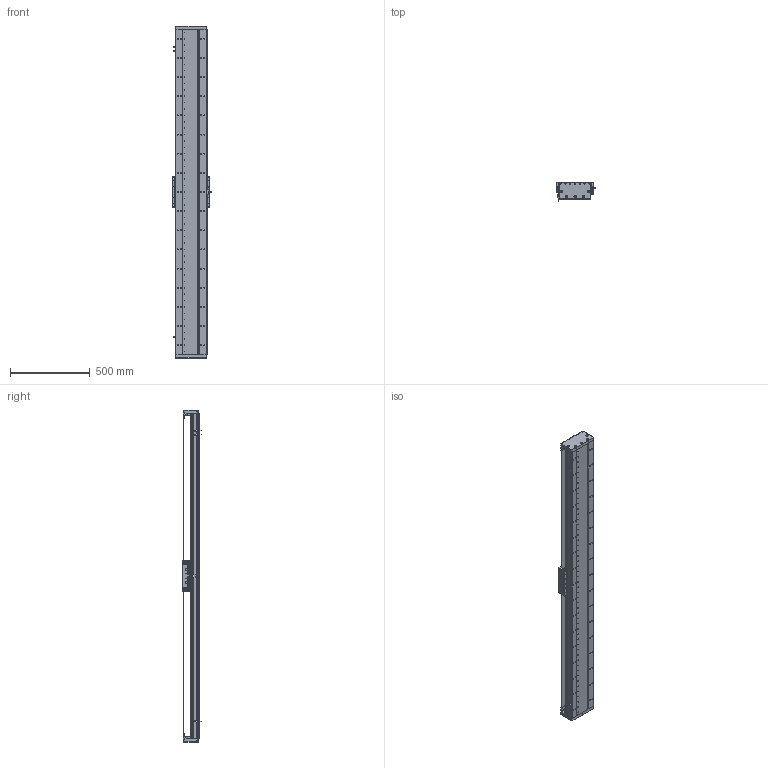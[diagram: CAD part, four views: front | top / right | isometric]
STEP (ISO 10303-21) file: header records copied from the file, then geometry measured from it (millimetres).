
FILE_DESCRIPTION (( 'STEP AP203' ), '1' );
FILE_NAME ('DA-C195-C2-T1800-C010-0.2 眻盄萇儂.STEP', '2025-08-15T01:08:32', ( '' ), ( '' ), 'SwSTEP 2.0', 'SolidWorks 2019', '' );
FILE_SCHEMA (( 'CONFIG_CONTROL_DESIGN' ));
Length unit declared in the file: millimetre
Products named in the file (15): MS200 棠掑喜S315-T1740; LMT黍杅芛; 葩璃 DA95-GT-T-00; DA195詩湍嶺輸; PM-T45ㄗ侂狟ㄘ; DA-C195-GD-DB-H-00 傷啣; IU-CU195-L 菁釱絳寢; DA-C195-C2-T1800-C010-0.2 眻盄萇儂; CU195-C2賑輸-俋楷; DA195詩湍裔啣; IU-CU195-L-00 菁釱(L2040); DA95-HXJ-00 遣喳砎蝶; DA195詩湍菜輸; DA195詩湍郪璃; DA165-GYP-00 光电感应片(默认)
Assembly tree (29 placements, depth 3):
  DA-C195-C2-T1800-C010-0.2 眻盄萇儂
    DA195詩湍郪璃
      DA195詩湍菜輸  x2
      DA195詩湍裔啣
      DA195詩湍嶺輸  x2
      DA95-HXJ-00 遣喳砎蝶  x8
      DA-C195-GD-DB-H-00 傷啣  x2
    IU-CU195-L 菁釱絳寢
      IU-CU195-L-00 菁釱(L2040)
      葩璃 DA95-GT-T-00  x4
    LMT黍杅芛
    MS200 棠掑喜S315-T1740
    PM-T45ㄗ侂狟ㄘ  x3
    DA165-GYP-00 光电感应片(默认)
    CU195-C2賑輸-俋楷
Bounding box: 248 x 115.45 x 2080 mm (x, y, z)
Volume: 12333013.4 mm3; surface area: 3611429.1 mm2
Topology: 66 solids, 130 shells, 4152 faces, 11347 edges, 7111 vertices
Faces by surface type: cylinder 2143, plane 1391, cone 530, torus 52, sphere 36
Entity records: 128259 total; most frequent: CARTESIAN_POINT 33230, ORIENTED_EDGE 19578, DIRECTION 19312, EDGE_CURVE 9789, AXIS2_PLACEMENT_3D 7245, VERTEX_POINT 6313, VECTOR 4822, LINE 4822
